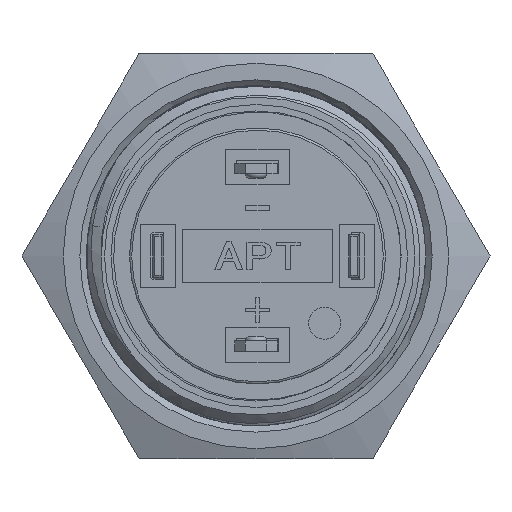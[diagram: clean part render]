
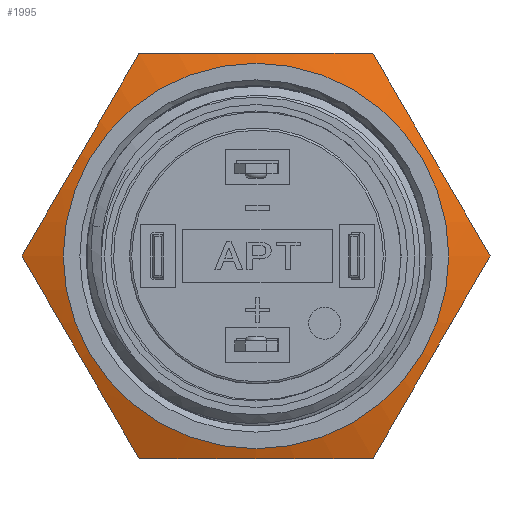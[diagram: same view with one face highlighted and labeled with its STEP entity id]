
A CAD part, front view. The second image highlights one B-rep face of the part: STEP entity #1995.
In plain terms, the highlighted conical face has half-angle 70.116 degrees and reference radius 10.97 mm.
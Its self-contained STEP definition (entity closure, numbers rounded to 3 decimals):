
#1223=B_SPLINE_CURVE_WITH_KNOTS('',3,(#16299,#16300,#16301,#16302,#16303),
 .UNSPECIFIED.,.F.,.F.,(4,1,4),(0.,0.5,1.),.UNSPECIFIED.);
#1224=B_SPLINE_CURVE_WITH_KNOTS('',3,(#16306,#16307,#16308,#16309,#16310),
 .UNSPECIFIED.,.F.,.F.,(4,1,4),(0.,0.5,1.),.UNSPECIFIED.);
#1225=B_SPLINE_CURVE_WITH_KNOTS('',3,(#16312,#16313,#16314,#16315,#16316),
 .UNSPECIFIED.,.F.,.F.,(4,1,4),(0.,0.5,1.),.UNSPECIFIED.);
#1226=B_SPLINE_CURVE_WITH_KNOTS('',3,(#16318,#16319,#16320,#16321,#16322),
 .UNSPECIFIED.,.F.,.F.,(4,1,4),(0.,0.5,1.),.UNSPECIFIED.);
#1227=B_SPLINE_CURVE_WITH_KNOTS('',3,(#16324,#16325,#16326,#16327,#16328),
 .UNSPECIFIED.,.F.,.F.,(4,1,4),(0.,0.5,1.),.UNSPECIFIED.);
#1228=B_SPLINE_CURVE_WITH_KNOTS('',3,(#16330,#16331,#16332,#16333,#16334),
 .UNSPECIFIED.,.F.,.F.,(4,1,4),(0.,0.5,1.),.UNSPECIFIED.);
#1260=CONICAL_SURFACE('',#9507,10.97,70.116);
#1468=CIRCLE('',#9503,9.034);
#1667=FACE_BOUND('',#3176,.T.);
#1668=FACE_BOUND('',#3177,.T.);
#1995=ADVANCED_FACE('',(#1667,#1668),#1260,.T.);
#3176=EDGE_LOOP('',(#6438));
#3177=EDGE_LOOP('',(#6439,#6440,#6441,#6442,#6443,#6444));
#6438=ORIENTED_EDGE('',*,*,#8761,.T.);
#6439=ORIENTED_EDGE('',*,*,#8763,.F.);
#6440=ORIENTED_EDGE('',*,*,#8764,.F.);
#6441=ORIENTED_EDGE('',*,*,#8765,.F.);
#6442=ORIENTED_EDGE('',*,*,#8766,.F.);
#6443=ORIENTED_EDGE('',*,*,#8767,.F.);
#6444=ORIENTED_EDGE('',*,*,#8768,.F.);
#7771=VERTEX_POINT('',#16295);
#7772=VERTEX_POINT('',#16304);
#7773=VERTEX_POINT('',#16305);
#7774=VERTEX_POINT('',#16311);
#7775=VERTEX_POINT('',#16317);
#7776=VERTEX_POINT('',#16323);
#7777=VERTEX_POINT('',#16329);
#8761=EDGE_CURVE('',#7771,#7771,#1468,.T.);
#8763=EDGE_CURVE('',#7772,#7773,#1223,.T.);
#8764=EDGE_CURVE('',#7774,#7772,#1224,.T.);
#8765=EDGE_CURVE('',#7775,#7774,#1225,.T.);
#8766=EDGE_CURVE('',#7776,#7775,#1226,.T.);
#8767=EDGE_CURVE('',#7777,#7776,#1227,.T.);
#8768=EDGE_CURVE('',#7773,#7777,#1228,.T.);
#9503=AXIS2_PLACEMENT_3D('',#16294,#11135,#11136);
#9507=AXIS2_PLACEMENT_3D('',#16335,#11143,#11144);
#11135=DIRECTION('',(0.,1.,0.));
#11136=DIRECTION('',(-1.,0.,0.));
#11143=DIRECTION('',(0.,1.,0.));
#11144=DIRECTION('',(-1.,0.,0.));
#16294=CARTESIAN_POINT('',(0.,11.95,0.));
#16295=CARTESIAN_POINT('',(-9.034,11.95,0.));
#16299=CARTESIAN_POINT('',(-10.97,12.65,0.));
#16300=CARTESIAN_POINT('',(-10.056,12.319,1.583));
#16301=CARTESIAN_POINT('',(-8.227,11.918,4.75));
#16302=CARTESIAN_POINT('',(-6.399,12.319,7.917));
#16303=CARTESIAN_POINT('',(-5.485,12.65,9.5));
#16304=CARTESIAN_POINT('',(-10.97,12.65,0.));
#16305=CARTESIAN_POINT('',(-5.485,12.65,9.5));
#16306=CARTESIAN_POINT('',(-5.485,12.65,-9.5));
#16307=CARTESIAN_POINT('',(-6.399,12.319,-7.917));
#16308=CARTESIAN_POINT('',(-8.227,11.918,-4.75));
#16309=CARTESIAN_POINT('',(-10.056,12.319,-1.583));
#16310=CARTESIAN_POINT('',(-10.97,12.65,0.));
#16311=CARTESIAN_POINT('',(-5.485,12.65,-9.5));
#16312=CARTESIAN_POINT('',(5.485,12.65,-9.5));
#16313=CARTESIAN_POINT('',(3.657,12.319,-9.5));
#16314=CARTESIAN_POINT('',(0.,11.918,-9.5));
#16315=CARTESIAN_POINT('',(-3.657,12.319,-9.5));
#16316=CARTESIAN_POINT('',(-5.485,12.65,-9.5));
#16317=CARTESIAN_POINT('',(5.485,12.65,-9.5));
#16318=CARTESIAN_POINT('',(10.97,12.65,0.));
#16319=CARTESIAN_POINT('',(10.056,12.319,-1.583));
#16320=CARTESIAN_POINT('',(8.227,11.918,-4.75));
#16321=CARTESIAN_POINT('',(6.399,12.319,-7.917));
#16322=CARTESIAN_POINT('',(5.485,12.65,-9.5));
#16323=CARTESIAN_POINT('',(10.97,12.65,0.));
#16324=CARTESIAN_POINT('',(5.485,12.65,9.5));
#16325=CARTESIAN_POINT('',(6.399,12.319,7.917));
#16326=CARTESIAN_POINT('',(8.227,11.918,4.75));
#16327=CARTESIAN_POINT('',(10.056,12.319,1.583));
#16328=CARTESIAN_POINT('',(10.97,12.65,0.));
#16329=CARTESIAN_POINT('',(5.485,12.65,9.5));
#16330=CARTESIAN_POINT('',(-5.485,12.65,9.5));
#16331=CARTESIAN_POINT('',(-3.657,12.319,9.5));
#16332=CARTESIAN_POINT('',(0.,11.918,9.5));
#16333=CARTESIAN_POINT('',(3.657,12.319,9.5));
#16334=CARTESIAN_POINT('',(5.485,12.65,9.5));
#16335=CARTESIAN_POINT('',(0.,12.65,0.));
